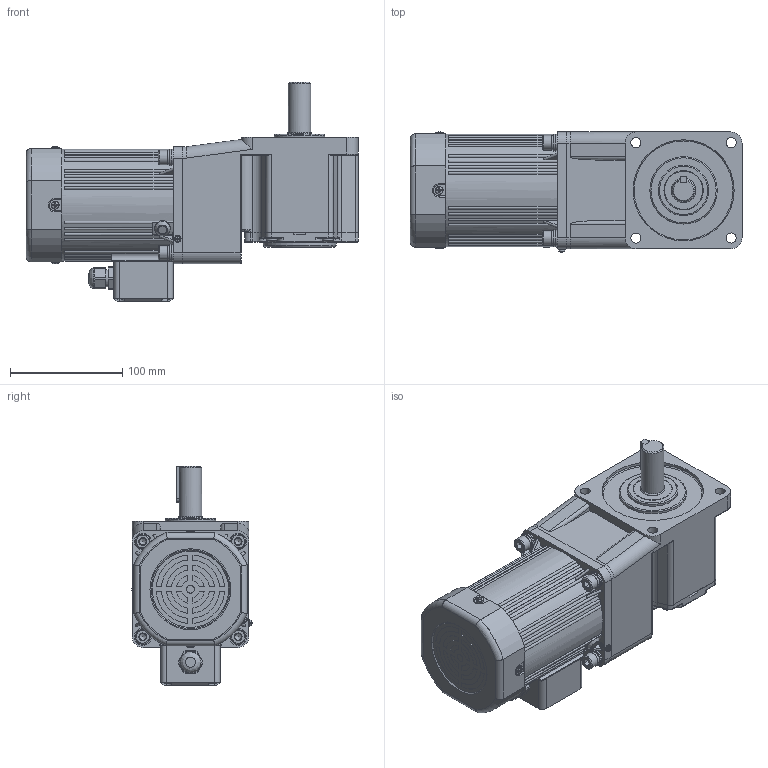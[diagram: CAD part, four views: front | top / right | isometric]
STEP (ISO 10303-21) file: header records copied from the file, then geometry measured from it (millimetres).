
FILE_DESCRIPTION(/* description */ (''),/* implementation_level */ '2;1');
FILE_NAME(/* name */ '100+直角中实-风叶-120-140W 新版常规接线盒.stp',/* time_stamp */ '2025-04-07T19:46:01+08:00',/* author */ (''),/* organization */ (''),/* preprocessor_version */ 'ST-DEVELOPER v18.102',/* originating_system */ 'SIEMENS PLM Software NX 2027',/* authorisation */ '');
FILE_SCHEMA (('AP203_CONFIGURATION_CONTROLLED_3D_DESIGN_OF_MECHANICAL_PARTS_AND_ASSEMBLIES_MIM_LF { 1 0 10303 403 2 1 2}'));
Products named in the file (1): 100+直角中实-风叶-120-140W 新版_
stp_objects
Bounding box: 295.5 x 106.83 x 195.5 mm (x, y, z)
Volume: 2887714.8 mm3; surface area: 395206.7 mm2
Topology: 27 solids, 27 shells, 1891 faces, 4900 edges, 3172 vertices
Faces by surface type: plane 817, cylinder 590, bspline 216, cone 125, torus 119, sphere 24
Full cylindrical faces by diameter (mm): 2.6 x2, 2.7 x1, 3 x17, 3.2 x2, 3.5 x4, 3.6 x4, 4 x4, 4.5 x4, 4.55 x2, 5.1 x2, 5.15 x2, 6 x10, 6.8 x12, 7 x2, 7.5 x2, 7.76 x4, 8.4 x4, 9 x14, 9.3 x1, 9.5 x4, 12 x1, 13 x4, 14 x8, 15 x7, 15.5 x2, 16 x1, 18 x1, 19 x3, 20 x1, 21 x1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
Entity records: 58375 total; most frequent: CARTESIAN_POINT 14965, ORIENTED_EDGE 8850, DIRECTION 8459, EDGE_CURVE 4425, AXIS2_PLACEMENT_3D 3320, VERTEX_POINT 3011, EDGE_LOOP 2391, ADVANCED_FACE 1891
